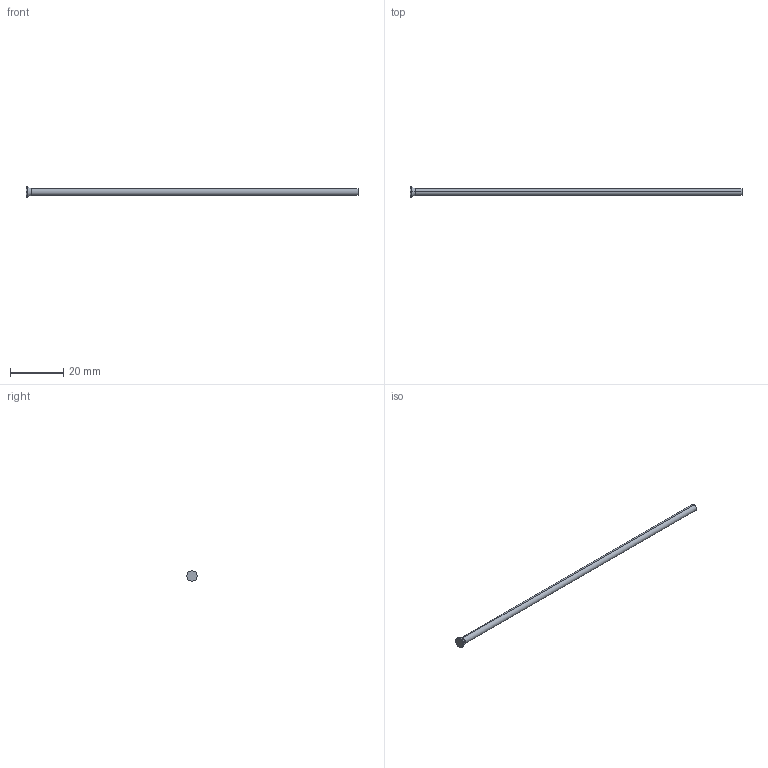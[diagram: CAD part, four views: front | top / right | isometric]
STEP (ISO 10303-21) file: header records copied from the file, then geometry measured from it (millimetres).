
FILE_DESCRIPTION (( 'STEP AP214' ), '1' );
FILE_NAME ('D-2,6x125.STEP', '2020-06-08T10:08:16', ( 'August' ), ( '' ), 'SwSTEP 2.0', 'SolidWorks 2018', '' );
FILE_SCHEMA (( 'AUTOMOTIVE_DESIGN' ));
Length unit declared in the file: millimetre
Products named in the file (1): D-2,6x125
Bounding box: 125 x 4 x 4 mm (x, y, z)
Volume: 671.4 mm3; surface area: 1045.6 mm2
Topology: 1 solids, 1 shells, 10 faces, 18 edges, 10 vertices
Faces by surface type: cylinder 4, torus 2, cone 2, plane 2
Entity records: 280 total; most frequent: DIRECTION 52, CARTESIAN_POINT 39, ORIENTED_EDGE 36, AXIS2_PLACEMENT_3D 23, EDGE_CURVE 18, CIRCLE 12, ADVANCED_FACE 10, EDGE_LOOP 10
